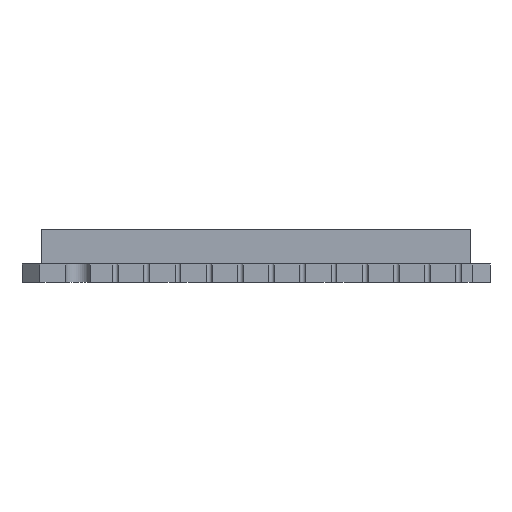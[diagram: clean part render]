
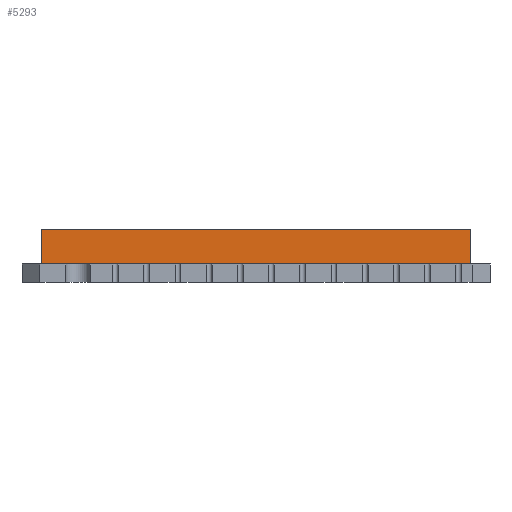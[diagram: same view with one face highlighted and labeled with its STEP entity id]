
A CAD part, left-side view. The second image highlights one B-rep face of the part: STEP entity #5293.
In plain terms, the highlighted planar face has unit normal (-1, 0, 0).
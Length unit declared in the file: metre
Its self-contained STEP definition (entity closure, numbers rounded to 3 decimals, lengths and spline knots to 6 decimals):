
#1092=ORIENTED_EDGE('',*,*,#2269,.T.);
#1093=ORIENTED_EDGE('',*,*,#2380,.F.);
#1094=ORIENTED_EDGE('',*,*,#1979,.F.);
#1095=ORIENTED_EDGE('',*,*,#2378,.T.);
#1979=EDGE_CURVE('',#2755,#2757,#3262,.T.);
#2269=EDGE_CURVE('',#3043,#3046,#3483,.T.);
#2378=EDGE_CURVE('',#2755,#3043,#3512,.T.);
#2380=EDGE_CURVE('',#2757,#3046,#3514,.T.);
#2755=VERTEX_POINT('',#8643);
#2757=VERTEX_POINT('',#8646);
#3043=VERTEX_POINT('',#9293);
#3046=VERTEX_POINT('',#9298);
#3262=LINE('',#8645,#3785);
#3483=LINE('',#9299,#4006);
#3512=LINE('',#9479,#4035);
#3514=LINE('',#9482,#4037);
#3785=VECTOR('',#7164,1.);
#4006=VECTOR('',#7569,1.);
#4035=VECTOR('',#7860,1.);
#4037=VECTOR('',#7864,1.);
#4392=EDGE_LOOP('',(#1092,#1093,#1094,#1095));
#4677=FACE_BOUND('',#4392,.T.);
#4911=PLANE('',#6896);
#5293=ADVANCED_FACE('',(#4677),#4911,.F.);
#6896=AXIS2_PLACEMENT_3D('',#9481,#7862,#7863);
#7164=DIRECTION('',(0.,-1.,0.));
#7569=DIRECTION('',(0.,-1.,0.));
#7860=DIRECTION('',(0.,0.,-1.));
#7862=DIRECTION('',(1.,0.,0.));
#7863=DIRECTION('',(0.,1.,0.));
#7864=DIRECTION('',(0.,0.,-1.));
#8643=CARTESIAN_POINT('',(-0.0175,0.0175,0.0043));
#8645=CARTESIAN_POINT('',(-0.0175,0.,0.0043));
#8646=CARTESIAN_POINT('',(-0.0175,-0.0175,0.0043));
#9293=CARTESIAN_POINT('',(-0.0175,0.0175,0.0015));
#9298=CARTESIAN_POINT('',(-0.0175,-0.0175,0.0015));
#9299=CARTESIAN_POINT('',(-0.0175,0.,0.0015));
#9479=CARTESIAN_POINT('',(-0.0175,0.0175,0.0043));
#9481=CARTESIAN_POINT('',(-0.0175,0.,0.0043));
#9482=CARTESIAN_POINT('',(-0.0175,-0.0175,0.0043));
